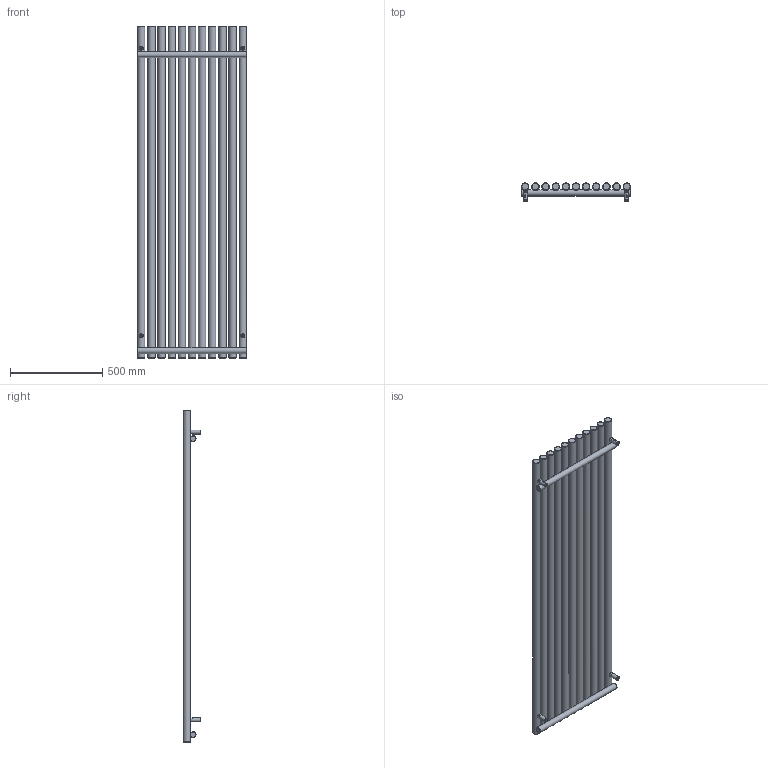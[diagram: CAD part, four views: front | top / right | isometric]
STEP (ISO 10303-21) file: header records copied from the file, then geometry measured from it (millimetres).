
FILE_DESCRIPTION(/* description */ (''),/* implementation_level */ '2;1');
FILE_NAME(/* name */ 'Z:\R\G\P\RGP116 - Grzejniki Geyser\Work\Inventor\Circolo (Rolo V, Rolo H)\ROLO-ROOM\Marketing\Bryły 3D\Zaokrąglone\WLROR180059-ES-CK-(Z).stp',/* time_stamp */ '2024-03-29T15:49:59+01:00',/* author */ ('NowAd'),/* organization */ (''),/* preprocessor_version */ 'ST-DEVELOPER v17.2',/* originating_system */ 'Autodesk Inventor 2019',/* authorisation */ '');
FILE_SCHEMA (('AUTOMOTIVE_DESIGN { 1 0 10303 214 3 1 1 }'));
Length unit declared in the file: millimetre
Products named in the file (3): WLROR180059-ES-CK-(Z); PGROR180059-ES-CK-(K); CK-V-fi40 marketing
Assembly tree (5 placements, depth 2):
  WLROR180059-ES-CK-(Z)
    PGROR180059-ES-CK-(K)
    CK-V-fi40 marketing  x4
Bounding box: 590 x 96.5 x 1800 mm (x, y, z)
Volume: 25868771.3 mm3; surface area: 2654513.8 mm2
Topology: 5 solids, 5 shells, 359 faces, 889 edges, 594 vertices
Faces by surface type: plane 144, cylinder 79, cone 60, torus 54, bspline 22
Full cylindrical faces by diameter (mm): 4.134 x4, 4.48 x4, 6.4 x4, 10 x4, 12 x4, 15.834 x4, 16 x4, 18.631 x2, 22 x4, 32 x2, 40 x11
Entity records: 10264 total; most frequent: CARTESIAN_POINT 6110, DIRECTION 862, ORIENTED_EDGE 816, EDGE_CURVE 408, AXIS2_PLACEMENT_3D 391, VERTEX_POINT 276, EDGE_LOOP 238, CIRCLE 221
